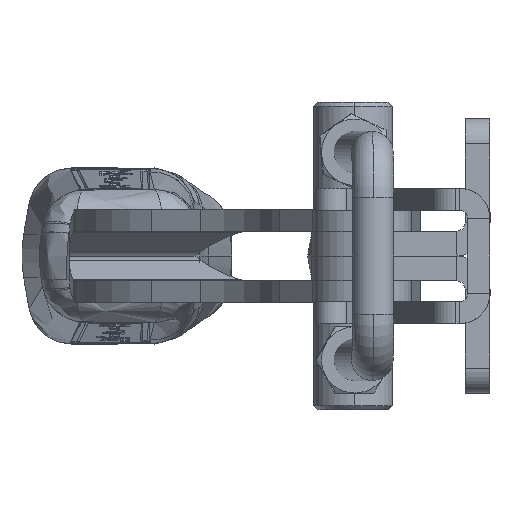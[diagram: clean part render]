
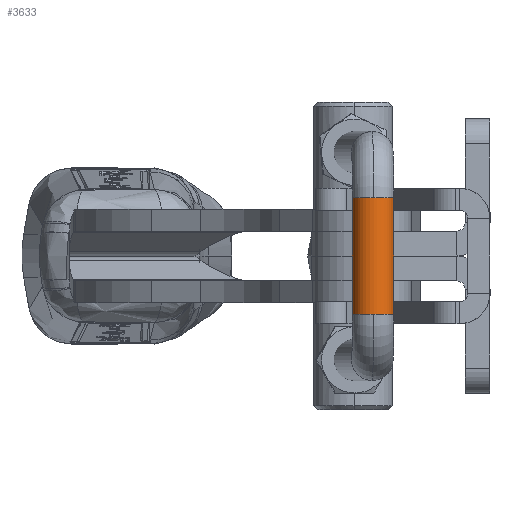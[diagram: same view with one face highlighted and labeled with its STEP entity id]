
A CAD part, left-side view. The second image highlights one B-rep face of the part: STEP entity #3633.
In plain terms, the highlighted cylindrical face has radius 2.5 mm (diameter 5 mm), a partial arc.
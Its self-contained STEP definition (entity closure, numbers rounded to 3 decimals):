
#168 = CARTESIAN_POINT ( 'NONE',  ( 7., 122.5, 2.5 ) ) ;
#498 = CARTESIAN_POINT ( 'NONE',  ( -7., 122.5, 2.5 ) ) ;
#1007 = EDGE_CURVE ( 'NONE', #12821, #18007, #6928, .T. ) ;
#1572 = LINE ( 'NONE', #498, #22309 ) ;
#1989 = DIRECTION ( 'NONE',  ( 0., 0., 1. ) ) ;
#2693 = AXIS2_PLACEMENT_3D ( 'NONE', #34441, #18228, #1989 ) ;
#3633 = ADVANCED_FACE ( 'NONE', ( #22480 ), #27133, .T. ) ;
#5277 = AXIS2_PLACEMENT_3D ( 'NONE', #30081, #13803, #32805 ) ;
#5392 = EDGE_LOOP ( 'NONE', ( #19941, #15378, #26922, #15947, #15569, #16118 ) ) ;
#5431 = DIRECTION ( 'NONE',  ( 1., 0., 0. ) ) ;
#5445 = CIRCLE ( 'NONE', #10859, 2.5 ) ;
#5846 = DIRECTION ( 'NONE',  ( 1., 0., 0. ) ) ;
#5863 = CARTESIAN_POINT ( 'NONE',  ( 7., 125., 0. ) ) ;
#6039 = DIRECTION ( 'NONE',  ( 1., 0., 0. ) ) ;
#6567 = AXIS2_PLACEMENT_3D ( 'NONE', #35128, #13175, #34900 ) ;
#6928 = LINE ( 'NONE', #31842, #25991 ) ;
#8799 = CARTESIAN_POINT ( 'NONE',  ( -7., 125., 0. ) ) ;
#10273 = DIRECTION ( 'NONE',  ( 1., 0., 0. ) ) ;
#10705 = VERTEX_POINT ( 'NONE', #5863 ) ;
#10859 = AXIS2_PLACEMENT_3D ( 'NONE', #22098, #5846, #24829 ) ;
#12821 = VERTEX_POINT ( 'NONE', #29862 ) ;
#13175 = DIRECTION ( 'NONE',  ( 1., 0., 0. ) ) ;
#13803 = DIRECTION ( 'NONE',  ( 1., 0., 0. ) ) ;
#14906 = CARTESIAN_POINT ( 'NONE',  ( 7., 122.5, -2.5 ) ) ;
#15378 = ORIENTED_EDGE ( 'NONE', *, *, #30938, .T. ) ;
#15569 = ORIENTED_EDGE ( 'NONE', *, *, #18683, .F. ) ;
#15947 = ORIENTED_EDGE ( 'NONE', *, *, #34823, .F. ) ;
#16118 = ORIENTED_EDGE ( 'NONE', *, *, #1007, .F. ) ;
#18007 = VERTEX_POINT ( 'NONE', #14906 ) ;
#18228 = DIRECTION ( 'NONE',  ( 1., 0., 0. ) ) ;
#18683 = EDGE_CURVE ( 'NONE', #18007, #10705, #22349, .T. ) ;
#18792 = VERTEX_POINT ( 'NONE', #21384 ) ;
#19763 = EDGE_CURVE ( 'NONE', #12821, #26813, #5445, .T. ) ;
#19941 = ORIENTED_EDGE ( 'NONE', *, *, #19763, .T. ) ;
#21039 = CIRCLE ( 'NONE', #22023, 2.5 ) ;
#21384 = CARTESIAN_POINT ( 'NONE',  ( -7., 122.5, 2.5 ) ) ;
#21665 = CARTESIAN_POINT ( 'NONE',  ( -7., 122.5, 0. ) ) ;
#22023 = AXIS2_PLACEMENT_3D ( 'NONE', #21665, #5431, #24397 ) ;
#22098 = CARTESIAN_POINT ( 'NONE',  ( -7., 122.5, 0. ) ) ;
#22309 = VECTOR ( 'NONE', #6039, 1000. ) ;
#22349 = CIRCLE ( 'NONE', #2693, 2.5 ) ;
#22480 = FACE_OUTER_BOUND ( 'NONE', #5392, .T. ) ;
#23790 = VERTEX_POINT ( 'NONE', #168 ) ;
#24397 = DIRECTION ( 'NONE',  ( 0., 0., 1. ) ) ;
#24829 = DIRECTION ( 'NONE',  ( 0., 0., 1. ) ) ;
#25991 = VECTOR ( 'NONE', #10273, 1000. ) ;
#26813 = VERTEX_POINT ( 'NONE', #8799 ) ;
#26922 = ORIENTED_EDGE ( 'NONE', *, *, #30513, .T. ) ;
#27133 = CYLINDRICAL_SURFACE ( 'NONE', #6567, 2.5 ) ;
#29758 = CIRCLE ( 'NONE', #5277, 2.5 ) ;
#29862 = CARTESIAN_POINT ( 'NONE',  ( -7., 122.5, -2.5 ) ) ;
#30081 = CARTESIAN_POINT ( 'NONE',  ( 7., 122.5, 0. ) ) ;
#30513 = EDGE_CURVE ( 'NONE', #18792, #23790, #1572, .T. ) ;
#30938 = EDGE_CURVE ( 'NONE', #26813, #18792, #21039, .T. ) ;
#31842 = CARTESIAN_POINT ( 'NONE',  ( -7., 122.5, -2.5 ) ) ;
#32805 = DIRECTION ( 'NONE',  ( 0., 0., 1. ) ) ;
#34441 = CARTESIAN_POINT ( 'NONE',  ( 7., 122.5, 0. ) ) ;
#34823 = EDGE_CURVE ( 'NONE', #10705, #23790, #29758, .T. ) ;
#34900 = DIRECTION ( 'NONE',  ( 0., 0., -1. ) ) ;
#35128 = CARTESIAN_POINT ( 'NONE',  ( -7., 122.5, 0. ) ) ;
